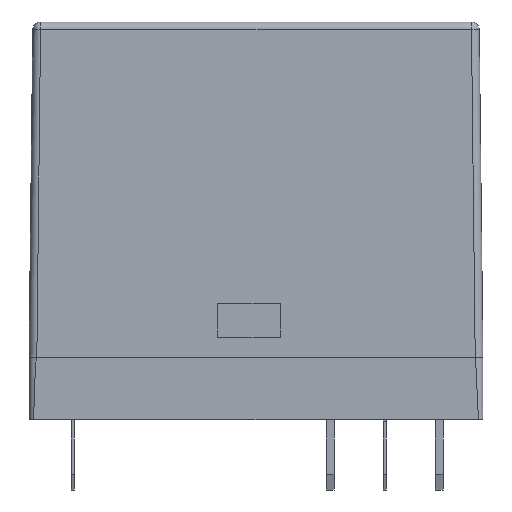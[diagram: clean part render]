
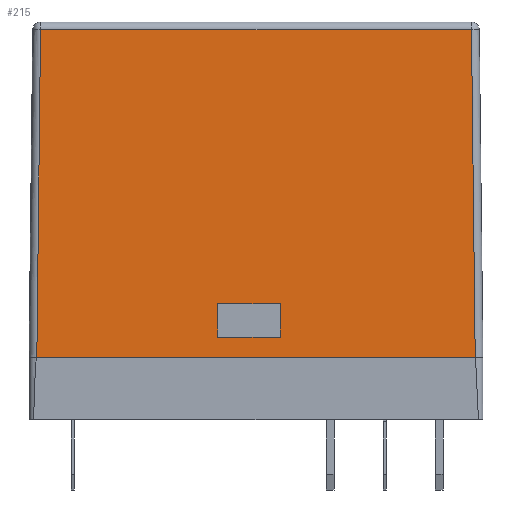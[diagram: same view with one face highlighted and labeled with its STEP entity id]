
A CAD part, left-side view. The second image highlights one B-rep face of the part: STEP entity #215.
In plain terms, the highlighted planar face has unit normal (-1, 0, 0.011).
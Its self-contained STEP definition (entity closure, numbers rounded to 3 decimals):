
#54 = VERTEX_POINT ( 'NONE', #510 ) ;
#94 = LINE ( 'NONE', #2795, #3361 ) ;
#161 = CARTESIAN_POINT ( 'NONE',  ( 0., 13., 8.5 ) ) ;
#215 = ADVANCED_FACE ( 'NONE', ( #1072, #1579 ), #768, .T. ) ;
#363 = EDGE_CURVE ( 'NONE', #3318, #744, #2259, .T. ) ;
#452 = EDGE_CURVE ( 'NONE', #3430, #2798, #2863, .T. ) ;
#453 = CARTESIAN_POINT ( 'NONE',  ( 0.039, 29.1, 11.95 ) ) ;
#510 = CARTESIAN_POINT ( 'NONE',  ( 0.015, 13., 9.8 ) ) ;
#682 = DIRECTION ( 'NONE',  ( 0., -1., 0. ) ) ;
#694 = EDGE_CURVE ( 'NONE', #744, #3350, #2301, .T. ) ;
#744 = VERTEX_POINT ( 'NONE', #1463 ) ;
#768 = PLANE ( 'NONE',  #2061 ) ;
#808 = ORIENTED_EDGE ( 'NONE', *, *, #3140, .T. ) ;
#855 = ORIENTED_EDGE ( 'NONE', *, *, #1431, .T. ) ;
#1001 = EDGE_LOOP ( 'NONE', ( #2325, #2205, #2717, #1266 ) ) ;
#1039 = EDGE_CURVE ( 'NONE', #2798, #2030, #2134, .T. ) ;
#1072 = FACE_BOUND ( 'NONE', #1001, .T. ) ;
#1089 = ORIENTED_EDGE ( 'NONE', *, *, #363, .T. ) ;
#1146 = VECTOR ( 'NONE', #1716, 1000. ) ;
#1176 = DIRECTION ( 'NONE',  ( -0.011, 0., -1. ) ) ;
#1266 = ORIENTED_EDGE ( 'NONE', *, *, #452, .T. ) ;
#1334 = CARTESIAN_POINT ( 'NONE',  ( 0.015, 29.1, 9.8 ) ) ;
#1431 = EDGE_CURVE ( 'NONE', #2950, #3318, #2363, .T. ) ;
#1463 = CARTESIAN_POINT ( 'NONE',  ( 0., 28.6, 8.503 ) ) ;
#1554 = VECTOR ( 'NONE', #1653, 1000. ) ;
#1559 = VECTOR ( 'NONE', #2888, 1000. ) ;
#1561 = CARTESIAN_POINT ( 'NONE',  ( 0.238, 0.738, 29.506 ) ) ;
#1579 = FACE_OUTER_BOUND ( 'NONE', #2350, .T. ) ;
#1653 = DIRECTION ( 'NONE',  ( -0.011, 0.011, -1. ) ) ;
#1716 = DIRECTION ( 'NONE',  ( 0.011, 0., 1. ) ) ;
#1778 = EDGE_CURVE ( 'NONE', #54, #3430, #3198, .T. ) ;
#1792 = CARTESIAN_POINT ( 'NONE',  ( 0.238, 28.856, 29.506 ) ) ;
#1815 = DIRECTION ( 'NONE',  ( 0., 1., 0. ) ) ;
#1863 = ORIENTED_EDGE ( 'NONE', *, *, #694, .T. ) ;
#1866 = DIRECTION ( 'NONE',  ( -1., 0., 0.011 ) ) ;
#1949 = VECTOR ( 'NONE', #682, 1000. ) ;
#2030 = VERTEX_POINT ( 'NONE', #2671 ) ;
#2061 = AXIS2_PLACEMENT_3D ( 'NONE', #3470, #1866, #3546 ) ;
#2134 = LINE ( 'NONE', #453, #3328 ) ;
#2205 = ORIENTED_EDGE ( 'NONE', *, *, #3204, .T. ) ;
#2259 = LINE ( 'NONE', #3354, #1554 ) ;
#2301 = LINE ( 'NONE', #2806, #1949 ) ;
#2325 = ORIENTED_EDGE ( 'NONE', *, *, #1039, .T. ) ;
#2350 = EDGE_LOOP ( 'NONE', ( #1863, #808, #855, #1089 ) ) ;
#2360 = VECTOR ( 'NONE', #1815, 1000. ) ;
#2363 = LINE ( 'NONE', #1792, #1559 ) ;
#2671 = CARTESIAN_POINT ( 'NONE',  ( 0.039, 13., 11.95 ) ) ;
#2717 = ORIENTED_EDGE ( 'NONE', *, *, #1778, .T. ) ;
#2777 = DIRECTION ( 'NONE',  ( 0.011, 0.011, 1. ) ) ;
#2795 = CARTESIAN_POINT ( 'NONE',  ( 0.004, 0.504, 8.824 ) ) ;
#2798 = VERTEX_POINT ( 'NONE', #3471 ) ;
#2806 = CARTESIAN_POINT ( 'NONE',  ( 0., 29.1, 8.503 ) ) ;
#2863 = LINE ( 'NONE', #3147, #1146 ) ;
#2888 = DIRECTION ( 'NONE',  ( 0., 1., 0. ) ) ;
#2949 = DIRECTION ( 'NONE',  ( 0., -1., 0. ) ) ;
#2950 = VERTEX_POINT ( 'NONE', #1561 ) ;
#3046 = CARTESIAN_POINT ( 'NONE',  ( 0., 0.498, 8.499 ) ) ;
#3081 = CARTESIAN_POINT ( 'NONE',  ( 0.015, 17., 9.8 ) ) ;
#3129 = VECTOR ( 'NONE', #1176, 1000. ) ;
#3136 = LINE ( 'NONE', #161, #3129 ) ;
#3140 = EDGE_CURVE ( 'NONE', #3350, #2950, #94, .T. ) ;
#3147 = CARTESIAN_POINT ( 'NONE',  ( 0., 17., 8.5 ) ) ;
#3198 = LINE ( 'NONE', #1334, #2360 ) ;
#3204 = EDGE_CURVE ( 'NONE', #2030, #54, #3136, .T. ) ;
#3313 = CARTESIAN_POINT ( 'NONE',  ( 0.238, 28.362, 29.506 ) ) ;
#3318 = VERTEX_POINT ( 'NONE', #3313 ) ;
#3328 = VECTOR ( 'NONE', #2949, 1000. ) ;
#3350 = VERTEX_POINT ( 'NONE', #3046 ) ;
#3354 = CARTESIAN_POINT ( 'NONE',  ( 0., 28.6, 8.494 ) ) ;
#3361 = VECTOR ( 'NONE', #2777, 1000. ) ;
#3430 = VERTEX_POINT ( 'NONE', #3081 ) ;
#3470 = CARTESIAN_POINT ( 'NONE',  ( 0., 29.1, 8.5 ) ) ;
#3471 = CARTESIAN_POINT ( 'NONE',  ( 0.039, 17., 11.95 ) ) ;
#3546 = DIRECTION ( 'NONE',  ( -0.011, 0., -1. ) ) ;
